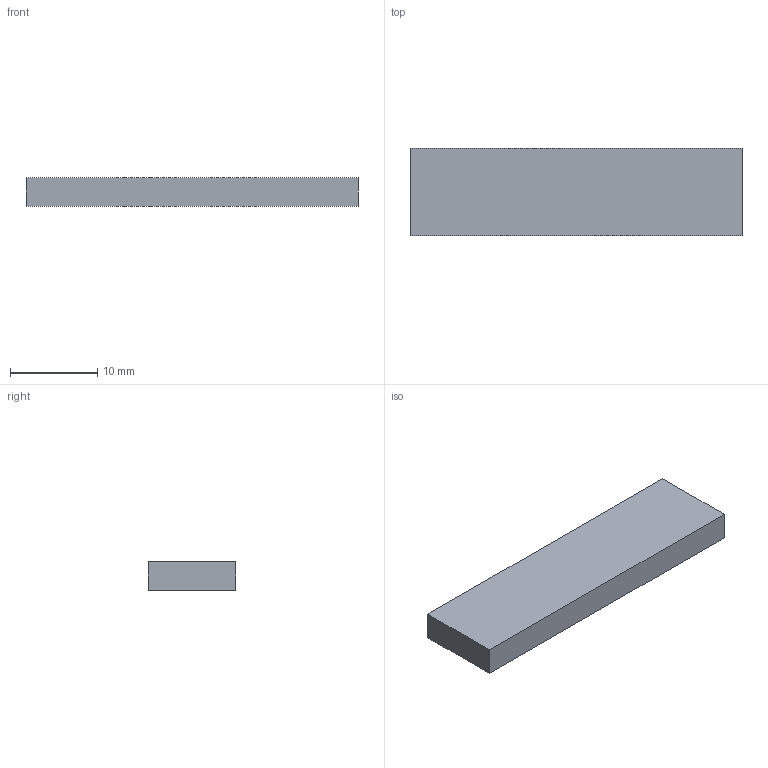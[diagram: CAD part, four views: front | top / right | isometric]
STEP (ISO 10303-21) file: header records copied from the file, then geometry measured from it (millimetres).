
FILE_DESCRIPTION(('Open CASCADE Model'),'2;1');
FILE_NAME('Open CASCADE Shape Model','2024-08-22T15:24:33',('Author'),( 'Open CASCADE'),'Open CASCADE STEP processor 7.5','Open CASCADE 7.5' ,'Unknown');
FILE_SCHEMA(('AUTOMOTIVE_DESIGN { 1 0 10303 214 1 1 1 1 }'));
Length unit declared in the file: millimetre
Products named in the file (3): PCB; Board; Open CASCADE STEP translator 7.5 2.1.1
Assembly tree (2 placements, depth 3):
  PCB
    Board
      Open CASCADE STEP translator 7.5 2.1.1
Bounding box: 38 x 10 x 3.29 mm (x, y, z)
Volume: 1251.7 mm3; surface area: 1076.2 mm2
Topology: 1 solids, 1 shells, 6 faces, 12 edges, 8 vertices
Faces by surface type: plane 6
Entity records: 213 total; most frequent: DIRECTION 30, CARTESIAN_POINT 29, ORIENTED_EDGE 24, EDGE_CURVE 12, LINE 12, VECTOR 12, AXIS2_PLACEMENT_3D 9, VERTEX_POINT 8
